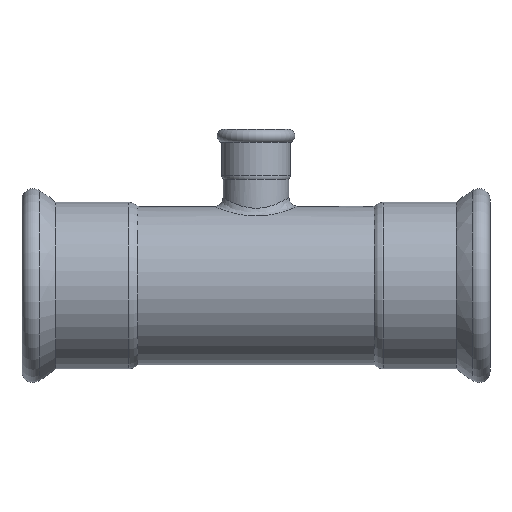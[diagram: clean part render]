
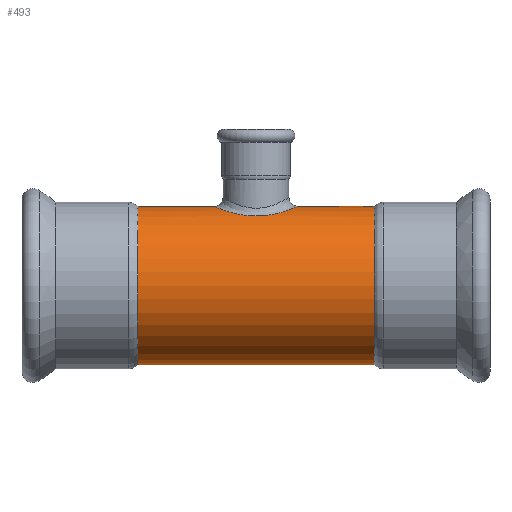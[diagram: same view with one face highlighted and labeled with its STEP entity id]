
A CAD part, front view. The second image highlights one B-rep face of the part: STEP entity #493.
In plain terms, the highlighted cylindrical face has radius 44.45 mm (diameter 88.9 mm), a full revolution.
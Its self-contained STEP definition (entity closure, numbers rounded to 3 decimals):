
#20=B_SPLINE_CURVE_WITH_KNOTS($,3,(#1326,#1327,#1328,#1329,#1330,#1331,
#1332,#1333,#1334,#1335,#1336,#1337,#1338,#1339,#1340,#1341,#1342,#1343,
#1344,#1345,#1346,#1347,#1348,#1349,#1350,#1351,#1352),.UNSPECIFIED.,.T.,
 .F.,(4,1,1,1,1,1,1,1,1,1,1,1,1,1,1,1,1,1,1,1,1,3,4),(-11.301,
-11.099,-10.494,-9.687,-8.879,
-8.274,-8.072,-7.265,-6.458,
-5.92,-5.381,-4.843,-4.574,
-4.305,-3.498,-3.229,-2.422,
-2.018,-1.614,-0.807,-0.404,
0.,0.),.UNSPECIFIED.);
#60=FACE_BOUND($,#182,.T.);
#61=FACE_BOUND($,#183,.T.);
#93=CYLINDRICAL_SURFACE($,#565,44.45);
#122=FACE_OUTER_BOUND($,#181,.T.);
#181=EDGE_LOOP($,(#424));
#182=EDGE_LOOP($,(#425));
#183=EDGE_LOOP($,(#426));
#255=CIRCLE($,#566,44.45);
#256=CIRCLE($,#567,44.45);
#300=VERTEX_POINT($,#1296);
#302=VERTEX_POINT($,#1355);
#303=VERTEX_POINT($,#1357);
#352=EDGE_CURVE($,#300,#300,#20,.T.);
#353=EDGE_CURVE($,#302,#302,#255,.T.);
#354=EDGE_CURVE($,#303,#303,#256,.T.);
#424=ORIENTED_EDGE($,*,*,#353,.F.);
#425=ORIENTED_EDGE($,*,*,#354,.T.);
#426=ORIENTED_EDGE($,*,*,#352,.F.);
#493=ADVANCED_FACE($,(#122,#60,#61),#93,.T.);
#565=AXIS2_PLACEMENT_3D($,#1354,#699,#700);
#566=AXIS2_PLACEMENT_3D($,#1356,#701,#702);
#567=AXIS2_PLACEMENT_3D($,#1358,#703,#704);
#699=DIRECTION('center_axis',(1.,0.,0.));
#700=DIRECTION('ref_axis',(0.,1.,0.));
#701=DIRECTION('center_axis',(1.,0.,0.));
#702=DIRECTION('ref_axis',(0.,1.,0.));
#703=DIRECTION('center_axis',(1.,0.,0.));
#704=DIRECTION('ref_axis',(0.,1.,0.));
#1296=CARTESIAN_POINT('',(-131.5,-21.124,39.11));
#1326=CARTESIAN_POINT('Ctrl Pts',(-131.5,-21.124,39.11));
#1327=CARTESIAN_POINT('Ctrl Pts',(-130.612,-21.123,39.11));
#1328=CARTESIAN_POINT('Ctrl Pts',(-127.048,-20.947,39.204));
#1329=CARTESIAN_POINT('Ctrl Pts',(-120.161,-19.117,40.188));
#1330=CARTESIAN_POINT('Ctrl Pts',(-112.578,-13.674,42.54));
#1331=CARTESIAN_POINT('Ctrl Pts',(-108.219,-5.708,44.354));
#1332=CARTESIAN_POINT('Ctrl Pts',(-107.796,0.813,44.536));
#1333=CARTESIAN_POINT('Ctrl Pts',(-109.006,7.138,44.024));
#1334=CARTESIAN_POINT('Ctrl Pts',(-112.578,13.667,42.541));
#1335=CARTESIAN_POINT('Ctrl Pts',(-119.912,18.944,40.265));
#1336=CARTESIAN_POINT('Ctrl Pts',(-127.871,21.203,39.07));
#1337=CARTESIAN_POINT('Ctrl Pts',(-135.112,21.204,39.067));
#1338=CARTESIAN_POINT('Ctrl Pts',(-140.793,19.601,39.921));
#1339=CARTESIAN_POINT('Ctrl Pts',(-144.826,17.492,40.878));
#1340=CARTESIAN_POINT('Ctrl Pts',(-149.337,14.255,42.189));
#1341=CARTESIAN_POINT('Ctrl Pts',(-152.708,9.875,43.494));
#1342=CARTESIAN_POINT('Ctrl Pts',(-155.196,2.744,44.528));
#1343=CARTESIAN_POINT('Ctrl Pts',(-155.197,-3.292,44.529));
#1344=CARTESIAN_POINT('Ctrl Pts',(-152.797,-9.339,43.53));
#1345=CARTESIAN_POINT('Ctrl Pts',(-149.05,-14.647,42.112));
#1346=CARTESIAN_POINT('Ctrl Pts',(-143.517,-18.629,40.404));
#1347=CARTESIAN_POINT('Ctrl Pts',(-136.859,-20.753,39.313));
#1348=CARTESIAN_POINT('Ctrl Pts',(-133.276,-21.124,39.11));
#1349=CARTESIAN_POINT('Ctrl Pts',(-131.5,-21.124,39.11));
#1350=CARTESIAN_POINT('Ctrl Pts',(-131.5,-21.124,39.11));
#1351=CARTESIAN_POINT('Ctrl Pts',(-131.5,-21.124,39.11));
#1352=CARTESIAN_POINT('Ctrl Pts',(-131.5,-21.124,39.11));
#1354=CARTESIAN_POINT('Origin',(-74.594,0.,0.));
#1355=CARTESIAN_POINT('',(-65.187,44.45,0.));
#1356=CARTESIAN_POINT('Origin',(-65.187,0.,0.));
#1357=CARTESIAN_POINT('',(-197.813,44.45,0.));
#1358=CARTESIAN_POINT('Origin',(-197.813,0.,0.));
